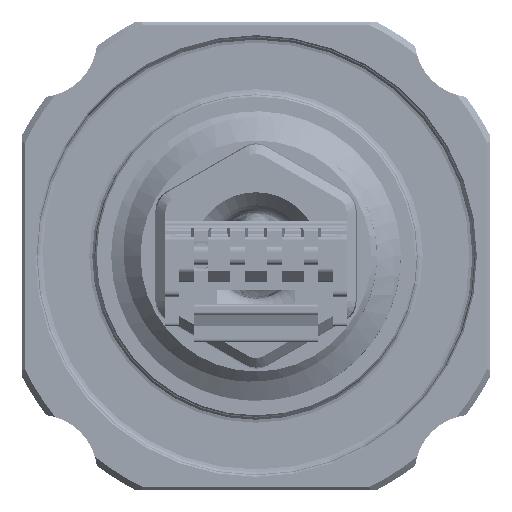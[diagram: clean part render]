
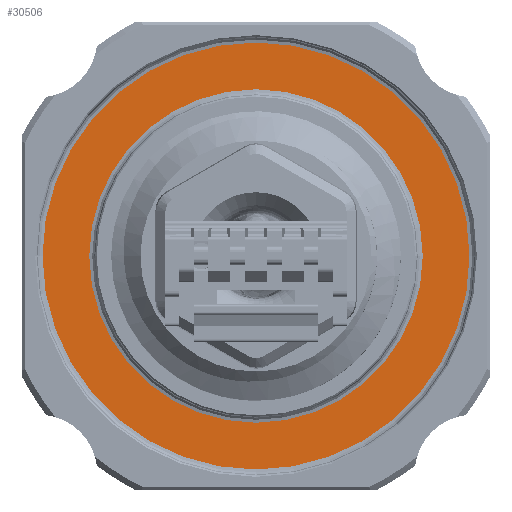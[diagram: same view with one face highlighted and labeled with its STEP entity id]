
A CAD part, front view. The second image highlights one B-rep face of the part: STEP entity #30506.
In plain terms, the highlighted planar face has unit normal (0, -1, 0).
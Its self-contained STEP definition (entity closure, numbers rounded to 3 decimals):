
#1078 = AXIS2_PLACEMENT_3D ( 'NONE', #32758, #14039, #30094 ) ;
#1859 = FACE_BOUND ( 'NONE', #19561, .T. ) ;
#2470 = CIRCLE ( 'NONE', #51785, 7.3 ) ;
#2690 = EDGE_CURVE ( 'NONE', #54416, #65695, #7543, .T. ) ;
#5646 = ORIENTED_EDGE ( 'NONE', *, *, #2690, .F. ) ;
#6991 = VERTEX_POINT ( 'NONE', #57082 ) ;
#7543 = CIRCLE ( 'NONE', #1078, 7.3 ) ;
#10639 = DIRECTION ( 'NONE',  ( 0., 1., 0. ) ) ;
#10936 = DIRECTION ( 'NONE',  ( -1., 0., 0. ) ) ;
#14039 = DIRECTION ( 'NONE',  ( 0., 1., 0. ) ) ;
#15119 = CIRCLE ( 'NONE', #24268, 5.7 ) ;
#17083 = CIRCLE ( 'NONE', #58672, 5.7 ) ;
#19561 = EDGE_LOOP ( 'NONE', ( #39261, #69069 ) ) ;
#20261 = AXIS2_PLACEMENT_3D ( 'NONE', #53062, #46935, #72561 ) ;
#20880 = EDGE_CURVE ( 'NONE', #67977, #6991, #17083, .T. ) ;
#21505 = EDGE_CURVE ( 'NONE', #65695, #54416, #2470, .T. ) ;
#24268 = AXIS2_PLACEMENT_3D ( 'NONE', #60568, #30445, #10936 ) ;
#27838 = PLANE ( 'NONE',  #20261 ) ;
#30094 = DIRECTION ( 'NONE',  ( -1., 0., 0. ) ) ;
#30164 = DIRECTION ( 'NONE',  ( -1., 0., 0. ) ) ;
#30445 = DIRECTION ( 'NONE',  ( 0., 1., 0. ) ) ;
#30506 = ADVANCED_FACE ( 'NONE', ( #1859, #51441 ), #27838, .T. ) ;
#32758 = CARTESIAN_POINT ( 'NONE',  ( 0., 21.25, 0. ) ) ;
#33730 = CARTESIAN_POINT ( 'NONE',  ( 0., 21.25, 0. ) ) ;
#34524 = DIRECTION ( 'NONE',  ( -1., 0., 0. ) ) ;
#37119 = EDGE_CURVE ( 'NONE', #6991, #67977, #15119, .T. ) ;
#39261 = ORIENTED_EDGE ( 'NONE', *, *, #20880, .T. ) ;
#43424 = EDGE_LOOP ( 'NONE', ( #48121, #5646 ) ) ;
#46935 = DIRECTION ( 'NONE',  ( 0., -1., 0. ) ) ;
#48121 = ORIENTED_EDGE ( 'NONE', *, *, #21505, .F. ) ;
#51441 = FACE_OUTER_BOUND ( 'NONE', #43424, .T. ) ;
#51785 = AXIS2_PLACEMENT_3D ( 'NONE', #33730, #78028, #34524 ) ;
#52708 = CARTESIAN_POINT ( 'NONE',  ( 7.3, 21.25, 0. ) ) ;
#53062 = CARTESIAN_POINT ( 'NONE',  ( -5.7, 21.25, 0. ) ) ;
#54416 = VERTEX_POINT ( 'NONE', #52708 ) ;
#56402 = CARTESIAN_POINT ( 'NONE',  ( -7.3, 21.25, 0. ) ) ;
#57082 = CARTESIAN_POINT ( 'NONE',  ( 5.7, 21.25, 0. ) ) ;
#58672 = AXIS2_PLACEMENT_3D ( 'NONE', #67550, #10639, #30164 ) ;
#60568 = CARTESIAN_POINT ( 'NONE',  ( 0., 21.25, 0. ) ) ;
#65695 = VERTEX_POINT ( 'NONE', #56402 ) ;
#66363 = CARTESIAN_POINT ( 'NONE',  ( -5.7, 21.25, 0. ) ) ;
#67550 = CARTESIAN_POINT ( 'NONE',  ( 0., 21.25, 0. ) ) ;
#67977 = VERTEX_POINT ( 'NONE', #66363 ) ;
#69069 = ORIENTED_EDGE ( 'NONE', *, *, #37119, .T. ) ;
#72561 = DIRECTION ( 'NONE',  ( 1., 0., 0. ) ) ;
#78028 = DIRECTION ( 'NONE',  ( 0., 1., 0. ) ) ;
